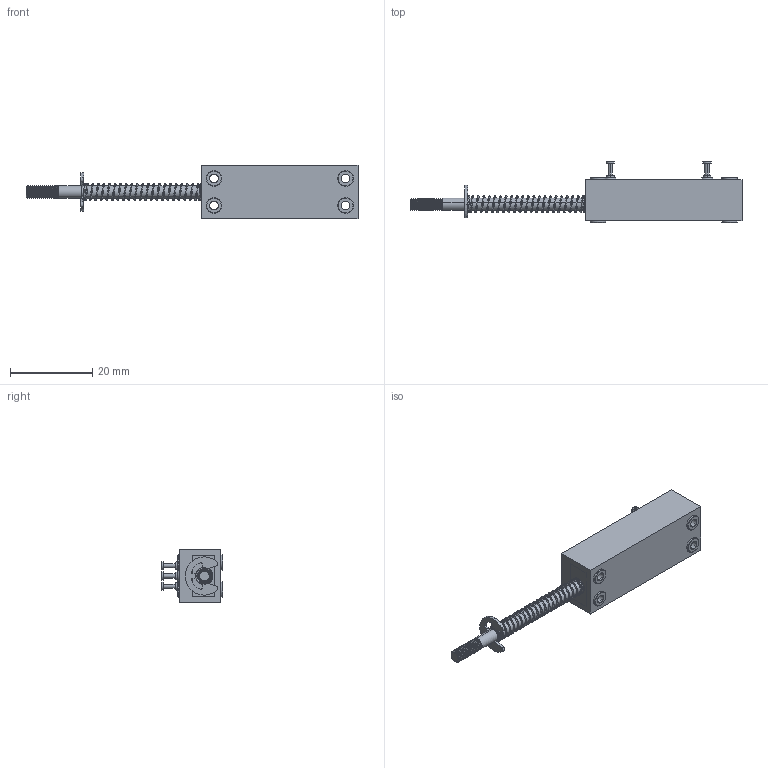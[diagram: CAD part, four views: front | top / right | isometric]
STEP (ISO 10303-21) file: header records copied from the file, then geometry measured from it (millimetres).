
FILE_DESCRIPTION (( 'STEP AP214' ), '1' );
FILE_NAME ('CLPR13_13.STEP', '2016-11-28T11:00:01', ( '' ), ( '' ), 'SwSTEP 2.0', 'SolidWorks 2016', '' );
FILE_SCHEMA (( 'AUTOMOTIVE_DESIGN' ));
Length unit declared in the file: millimetre
Products named in the file (8): lock washer for shafts_din_Lock washer DIN 6799 - 4; Feder_CLPR13-13; Taster_CLPR13_M2; Lager_CLP13; Lötstifte_hoch_CLP13; Hohlniet_CLP13; Gehäuse_CLP13-13; CLPR13_13
Assembly tree (12 placements, depth 2):
  CLPR13_13
    Gehäuse_CLP13-13
    Hohlniet_CLP13  x4
    Lötstifte_hoch_CLP13  x3
    Lager_CLP13
    Taster_CLPR13_M2
    Feder_CLPR13-13
    lock washer for shafts_din_Lock washer DIN 6799 - 4
Bounding box: 80.7 x 15 x 13 mm (x, y, z)
Volume: 4834.1 mm3; surface area: 4703 mm2
Topology: 12 solids, 12 shells, 485 faces, 1210 edges, 797 vertices
Faces by surface type: plane 225, cylinder 114, bspline 103, cone 43
Entity records: 30077 total; most frequent: CARTESIAN_POINT 17415, ORIENTED_EDGE 2140, DIRECTION 1580, EDGE_CURVE 1070, VERTEX_POINT 709, VECTOR 656, LINE 656, EDGE_LOOP 465
